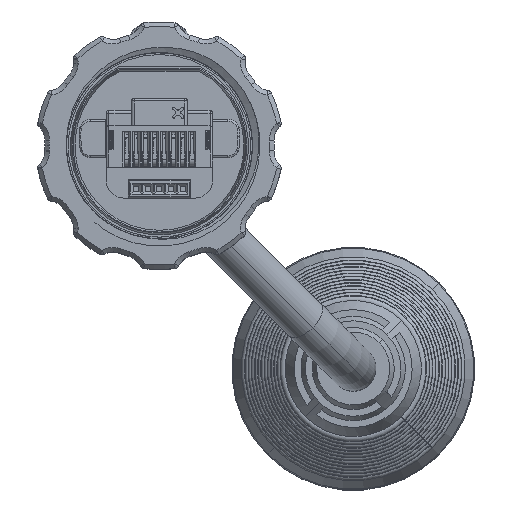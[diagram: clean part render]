
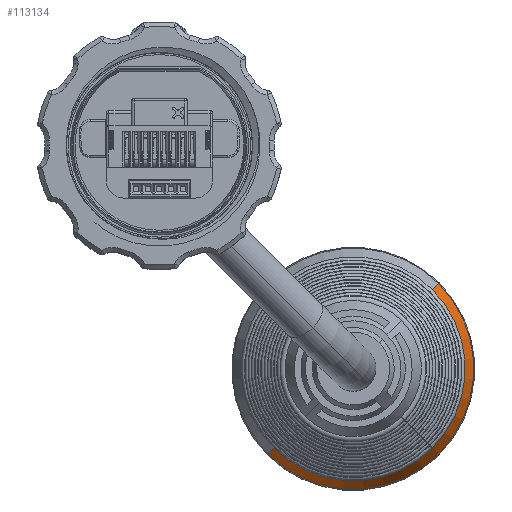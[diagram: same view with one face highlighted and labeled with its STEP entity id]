
A CAD part, top view. The second image highlights one B-rep face of the part: STEP entity #113134.
In plain terms, the highlighted conical face has half-angle 26.081 degrees and reference radius 4 mm.
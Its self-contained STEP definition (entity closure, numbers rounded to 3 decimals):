
#8172 = VERTEX_POINT ( 'NONE', #158038 ) ;
#10584 = CARTESIAN_POINT ( 'NONE',  ( 29.762, -15.664, -92.428 ) ) ;
#14375 = DIRECTION ( 'NONE',  ( -0.707, -0.707, 0. ) ) ;
#17844 = CARTESIAN_POINT ( 'NONE',  ( 21.213, -24.213, -75.9 ) ) ;
#18216 = CARTESIAN_POINT ( 'NONE',  ( 30.546, -14.881, -94.692 ) ) ;
#18237 = VERTEX_POINT ( 'NONE', #18216 ) ;
#23361 = AXIS2_PLACEMENT_3D ( 'NONE', #53619, #116272, #27894 ) ;
#27894 = DIRECTION ( 'NONE',  ( -0.707, -0.707, 0. ) ) ;
#33379 = ORIENTED_EDGE ( 'NONE', *, *, #80301, .T. ) ;
#35295 = AXIS2_PLACEMENT_3D ( 'NONE', #132515, #106816, #48109 ) ;
#40423 = FACE_OUTER_BOUND ( 'NONE', #154706, .T. ) ;
#41758 = VERTEX_POINT ( 'NONE', #131015 ) ;
#42785 = DIRECTION ( 'NONE',  ( 0., 0., -1. ) ) ;
#44175 = ORIENTED_EDGE ( 'NONE', *, *, #153096, .F. ) ;
#47053 = CIRCLE ( 'NONE', #67586, 12.09 ) ;
#48109 = DIRECTION ( 'NONE',  ( -0.707, -0.707, 0. ) ) ;
#50057 = ORIENTED_EDGE ( 'NONE', *, *, #125548, .F. ) ;
#52493 = VECTOR ( 'NONE', #56843, 1000. ) ;
#53619 = CARTESIAN_POINT ( 'NONE',  ( 21.213, -24.213, -94.692 ) ) ;
#54273 = CIRCLE ( 'NONE', #23361, 13.198 ) ;
#56843 = DIRECTION ( 'NONE',  ( -0.311, -0.311, -0.898 ) ) ;
#67586 = AXIS2_PLACEMENT_3D ( 'NONE', #135785, #100407, #14375 ) ;
#67856 = CONICAL_SURFACE ( 'NONE', #114094, 4., 0.455 ) ;
#74789 = LINE ( 'NONE', #79327, #89277 ) ;
#78991 = DIRECTION ( 'NONE',  ( 0.707, 0.707, 0. ) ) ;
#79327 = CARTESIAN_POINT ( 'NONE',  ( 24.042, -21.385, -75.9 ) ) ;
#80301 = EDGE_CURVE ( 'NONE', #8172, #18237, #54273, .T. ) ;
#80679 = ORIENTED_EDGE ( 'NONE', *, *, #113570, .T. ) ;
#86652 = VERTEX_POINT ( 'NONE', #10584 ) ;
#89277 = VECTOR ( 'NONE', #148732, 1000. ) ;
#96210 = LINE ( 'NONE', #109048, #52493 ) ;
#97355 = EDGE_CURVE ( 'NONE', #41758, #141676, #114822, .T. ) ;
#100407 = DIRECTION ( 'NONE',  ( 0., 0., 1. ) ) ;
#106816 = DIRECTION ( 'NONE',  ( 0., 0., 1. ) ) ;
#109048 = CARTESIAN_POINT ( 'NONE',  ( 18.385, -27.042, -75.9 ) ) ;
#113134 = ADVANCED_FACE ( 'NONE', ( #40423 ), #67856, .T. ) ;
#113570 = EDGE_CURVE ( 'NONE', #41758, #8172, #96210, .T. ) ;
#114094 = AXIS2_PLACEMENT_3D ( 'NONE', #17844, #42785, #78991 ) ;
#114710 = CARTESIAN_POINT ( 'NONE',  ( 29.762, -32.762, -92.428 ) ) ;
#114822 = CIRCLE ( 'NONE', #35295, 12.09 ) ;
#116272 = DIRECTION ( 'NONE',  ( 0., 0., 1. ) ) ;
#125548 = EDGE_CURVE ( 'NONE', #141676, #86652, #47053, .T. ) ;
#131015 = CARTESIAN_POINT ( 'NONE',  ( 12.664, -32.762, -92.428 ) ) ;
#132515 = CARTESIAN_POINT ( 'NONE',  ( 21.213, -24.213, -92.428 ) ) ;
#135785 = CARTESIAN_POINT ( 'NONE',  ( 21.213, -24.213, -92.428 ) ) ;
#141676 = VERTEX_POINT ( 'NONE', #114710 ) ;
#148274 = ORIENTED_EDGE ( 'NONE', *, *, #97355, .F. ) ;
#148732 = DIRECTION ( 'NONE',  ( 0.311, 0.311, -0.898 ) ) ;
#153096 = EDGE_CURVE ( 'NONE', #86652, #18237, #74789, .T. ) ;
#154706 = EDGE_LOOP ( 'NONE', ( #148274, #80679, #33379, #44175, #50057 ) ) ;
#158038 = CARTESIAN_POINT ( 'NONE',  ( 11.881, -33.546, -94.692 ) ) ;
